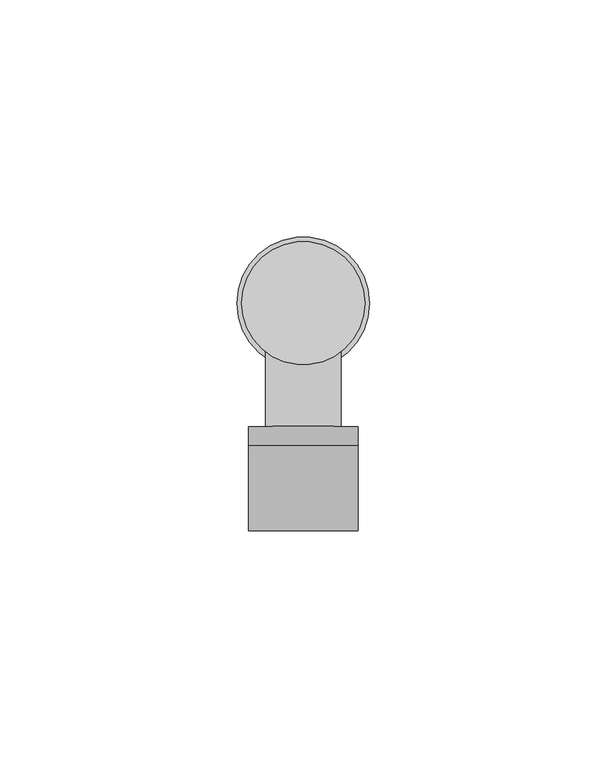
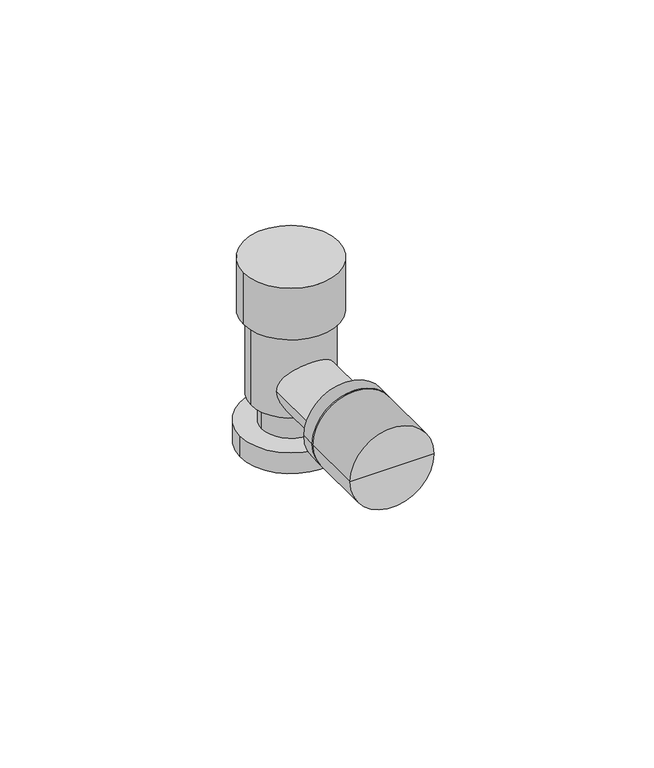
"""IFC4 building model written with IfcOpenShell, lengths in millimetres: pipe fitting geometry, KAN-therm Push 18x2 podejście do baterii długie : KAN-therm Push 18x2 podejście do baterii długie."""

from ifc_helpers import new_model, si_unit, point, frame, origin, origin_2d, place, context, project, spatial, circle_curve, trimmed, segment, composite_curve, outline, extrude, source, transform, mapped, element, save
from ifc_brep_helpers import plane_surface, cylinder_surface, advanced_brep


def pipe_fitting_6474cc42(model_context):
    return source(origin(), model_context, "Body", "SolidModel", [
        advanced_brep(
        [(-11.5, -30.0, 0.0), (11.5, -30.0, 0.0), (0.0, -30.0, 0.0), (-11.5, -26.0, 0.0), (11.5, -26.0, 0.0), (0.0, -26.0, 0.0)],
        [
            (0, 1, circle_curve(frame((0.0, -30.0, 0.0), z_axis=(0.0, -1.0, 0.0), x_axis=(1.0000000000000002, 0.0, 0.0)), 11.5)),
            (1, 2),
            (2, 0),
            (1, 0, circle_curve(frame((0.0, -30.0, 0.0), z_axis=(0.0, -1.0, 0.0), x_axis=(1.0000000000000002, 0.0, 0.0)), 11.5)),
            (3, 4, circle_curve(frame((0.0, -26.0, 0.0), z_axis=(0.0, -1.0, 0.0), x_axis=(1.0000000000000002, 0.0, 0.0)), 11.5)),
            (4, 1),
            (0, 3),
            (4, 3, circle_curve(frame((0.0, -26.0, 0.0), z_axis=(0.0, -1.0, 0.0), x_axis=(1.0000000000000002, 0.0, 0.0)), 11.5)),
            (5, 4),
            (3, 5),
        ],
        [
            plane_surface(frame((0.0, -30.0, 0.0), z_axis=(0.0, -1.0, 0.0), x_axis=(1.0, 0.0, 0.0))),
            cylinder_surface(frame((0.0, -2025.0, 0.0), z_axis=(0.0, 1.0000000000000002, 0.0), x_axis=(1.0000000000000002, 0.0, 0.0)), 11.5),
            plane_surface(frame((0.0, -26.0, 0.0), z_axis=(0.0, 1.0, 0.0), x_axis=(1.0, 0.0, 0.0))),
        ],
        [
            (0, [[1, 2, 3]]),
            (0, [[4, -3, -2]]),
            (1, [[5, 6, -1, 7]]),
            (1, [[8, -7, -4, -6]]),
            (2, [[9, -5, 10]]),
            (2, [[-10, -8, -9]]),
        ],
    ),
        advanced_brep(
        [(-11.5, -48.0, 0.0), (11.5, -48.0, 0.0), (0.0, -48.0, 0.0), (-11.5, -30.0, 0.0), (11.5, -30.0, 0.0), (0.0, -30.0, 0.0)],
        [
            (0, 1, circle_curve(frame((0.0, -48.0, 0.0), z_axis=(0.0, -1.0, 0.0), x_axis=(1.0000000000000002, 0.0, 0.0)), 11.5)),
            (1, 2),
            (2, 0),
            (1, 0, circle_curve(frame((0.0, -48.0, 0.0), z_axis=(0.0, -1.0, 0.0), x_axis=(1.0000000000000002, 0.0, 0.0)), 11.5)),
            (3, 4, circle_curve(frame((0.0, -30.0, 0.0), z_axis=(0.0, -1.0, 0.0), x_axis=(1.0000000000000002, 0.0, 0.0)), 11.5)),
            (4, 1),
            (0, 3),
            (4, 3, circle_curve(frame((0.0, -30.0, 0.0), z_axis=(0.0, -1.0, 0.0), x_axis=(1.0000000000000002, 0.0, 0.0)), 11.5)),
            (5, 4),
            (3, 5),
        ],
        [
            plane_surface(frame((0.0, -48.0, 0.0), z_axis=(0.0, -1.0, 0.0), x_axis=(1.0, 0.0, 0.0))),
            cylinder_surface(frame((0.0, -2025.0, 0.0), z_axis=(0.0, 1.0000000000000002, 0.0), x_axis=(1.0000000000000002, 0.0, 0.0)), 11.5),
            plane_surface(frame((0.0, -30.0, 0.0), z_axis=(0.0, 1.0, 0.0), x_axis=(1.0, 0.0, 0.0))),
        ],
        [
            (0, [[1, 2, 3]]),
            (0, [[4, -3, -2]]),
            (1, [[5, 6, -1, 7]]),
            (1, [[8, -7, -4, -6]]),
            (2, [[9, -5, 10]]),
            (2, [[-10, -8, -9]]),
        ],
    ),
        extrude(outline(composite_curve([segment(trimmed(circle_curve(origin_2d(), 8.0), [point((-8.0, 0.0))], [point((8.0, 0.0))], False, "CARTESIAN"), True, "CONTINUOUS"), segment(trimmed(circle_curve(origin_2d(), 8.0), [point((8.0, 0.0))], [point((-8.0, 0.0))], False, "CARTESIAN"), True, "CONTINUOUS")], self_intersect=False)), frame((0.0, 0.0, -15.0), z_axis=(0.0, 0.0, 1.0), x_axis=(1.0, 0.0, 0.0)), (0.0, 0.0, 1.0), 8.0),
        extrude(outline(composite_curve([segment(trimmed(circle_curve(origin_2d(), 8.0), [point((0.0, -8.0))], [point((0.0, 8.0))], False, "CARTESIAN"), True, "CONTINUOUS"), segment(trimmed(circle_curve(origin_2d(), 8.0), [point((0.0, 8.0))], [point((0.0, -8.0))], False, "CARTESIAN"), True, "CONTINUOUS")], self_intersect=False)), frame((0.0, -30.0, 0.0), z_axis=(0.0, 1.0, 0.0), x_axis=(0.0, 0.0, 1.0)), (0.0, 0.0, 1.0), 30.0),
        extrude(outline(composite_curve([segment(trimmed(circle_curve(origin_2d(), 14.0), [point((-14.0, 0.0))], [point((14.0, 0.0))], False, "CARTESIAN"), True, "CONTINUOUS"), segment(trimmed(circle_curve(origin_2d(), 14.0), [point((14.0, 0.0))], [point((-14.0, 0.0))], False, "CARTESIAN"), True, "CONTINUOUS")], self_intersect=False)), frame((0.0, 0.0, -21.0), z_axis=(0.0, 0.0, 1.0), x_axis=(1.0, 0.0, 0.0)), (0.0, 0.0, 1.0), 6.0),
        extrude(outline(composite_curve([segment(trimmed(circle_curve(origin_2d(), 11.0), [point((-11.0, 0.0))], [point((11.0, 0.0))], False, "CARTESIAN"), True, "CONTINUOUS"), segment(trimmed(circle_curve(origin_2d(), 11.0), [point((11.0, 0.0))], [point((-11.0, 0.0))], False, "CARTESIAN"), True, "CONTINUOUS")], self_intersect=False)), frame((0.0, 0.0, -7.0), z_axis=(0.0, 0.0, 1.0), x_axis=(1.0, 0.0, 0.0)), (0.0, 0.0, 1.0), 27.0),
        extrude(outline(composite_curve([segment(trimmed(circle_curve(origin_2d(), 13.0), [point((-13.0, 0.0))], [point((13.0, 0.0))], False, "CARTESIAN"), True, "CONTINUOUS"), segment(trimmed(circle_curve(origin_2d(), 13.0), [point((13.0, 0.0))], [point((-13.0, 0.0))], False, "CARTESIAN"), True, "CONTINUOUS")], self_intersect=False)), frame((0.0, 0.0, 17.0), z_axis=(0.0, 0.0, 1.0), x_axis=(1.0, 0.0, 0.0)), (0.0, 0.0, 1.0), 15.0),
    ])


if __name__ == "__main__":
    model = new_model("IFC4")
    model_context = context("Model", 3, world=origin())
    ifc_project = project(units=[si_unit("LENGTHUNIT", "METRE", prefix="MILLI")], contexts=[model_context])
    site = spatial("IfcSite", under=ifc_project)
    building = spatial("IfcBuilding", under=site)
    placement = place(None, origin())
    pipe_fitting_shape = pipe_fitting_6474cc42(model_context)
    element("IfcPipeFitting", 1, ObjectType="KAN-therm Push 18x2 podejście do baterii długie : KAN-therm Push 18x2 podejście do baterii długie", at=placement, inside=building, context=model_context, shape_type="MappedRepresentation", body=[
        mapped(pipe_fitting_shape, transform((0.0, 0.0, 0.0), x_axis=(1.0, 0.0, 0.0), y_axis=(0.0, 1.0, 0.0), z_axis=(0.0, 0.0, 1.0))),
    ])
    save(model, "model.ifc")
